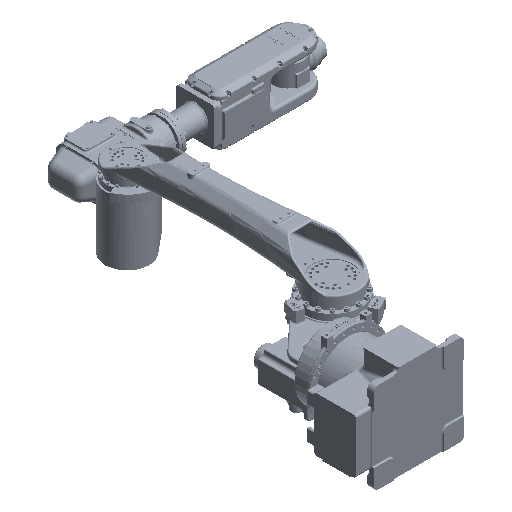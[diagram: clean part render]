
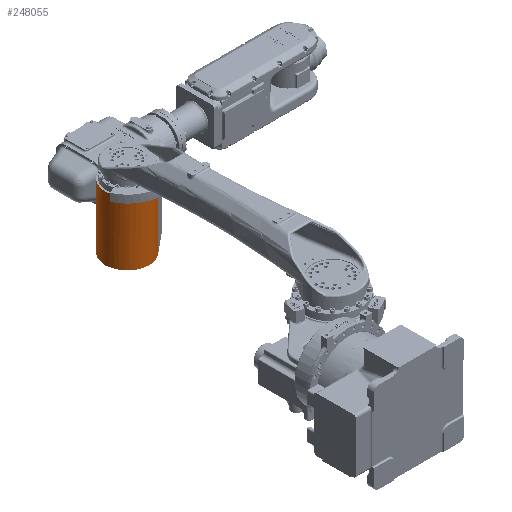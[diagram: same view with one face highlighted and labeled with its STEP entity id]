
A CAD part, isometric view. The second image highlights one B-rep face of the part: STEP entity #248055.
In plain terms, the highlighted cylindrical face has radius 85 mm (diameter 170 mm), a partial arc.
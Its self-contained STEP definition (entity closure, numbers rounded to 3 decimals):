
#8869 = AXIS2_PLACEMENT_3D ( 'NONE', #95804, #334517, #130101 ) ;
#11111 = EDGE_CURVE ( 'NONE', #44931, #270180, #419531, .T. ) ;
#14066 = LINE ( 'NONE', #279368, #126208 ) ;
#26839 = CARTESIAN_POINT ( 'NONE',  ( 54.637, -65.114, -136.05 ) ) ;
#28510 = CIRCLE ( 'NONE', #8869, 85. ) ;
#33507 = CARTESIAN_POINT ( 'NONE',  ( 0., 0., -136.05 ) ) ;
#35946 = CARTESIAN_POINT ( 'NONE',  ( 0., 0., 110.45 ) ) ;
#44931 = VERTEX_POINT ( 'NONE', #80710 ) ;
#64546 = CIRCLE ( 'NONE', #80362, 85. ) ;
#65270 = CYLINDRICAL_SURFACE ( 'NONE', #95988, 85. ) ;
#67826 = DIRECTION ( 'NONE',  ( 1., 0., 0. ) ) ;
#70273 = DIRECTION ( 'NONE',  ( 1., 0., 0. ) ) ;
#77202 = CARTESIAN_POINT ( 'NONE',  ( -5.116, 84.846, 110.45 ) ) ;
#77561 = AXIS2_PLACEMENT_3D ( 'NONE', #33507, #272334, #67826 ) ;
#80362 = AXIS2_PLACEMENT_3D ( 'NONE', #127391, #366119, #161856 ) ;
#80710 = CARTESIAN_POINT ( 'NONE',  ( 54.144, -65.524, 110.45 ) ) ;
#84689 = VERTEX_POINT ( 'NONE', #26839 ) ;
#95804 = CARTESIAN_POINT ( 'NONE',  ( 0., 0., -44.55 ) ) ;
#95988 = AXIS2_PLACEMENT_3D ( 'NONE', #315323, #352437, #148164 ) ;
#116272 = CARTESIAN_POINT ( 'NONE',  ( 0., 85., -136.05 ) ) ;
#126208 = VECTOR ( 'NONE', #143517, 1000. ) ;
#127391 = CARTESIAN_POINT ( 'NONE',  ( 0., 0., -134.55 ) ) ;
#130101 = DIRECTION ( 'NONE',  ( 1., 0., 0. ) ) ;
#142648 = ORIENTED_EDGE ( 'NONE', *, *, #297705, .F. ) ;
#143517 = DIRECTION ( 'NONE',  ( 0., 0., -1. ) ) ;
#148164 = DIRECTION ( 'NONE',  ( 1., 0., 0. ) ) ;
#150637 = DIRECTION ( 'NONE',  ( 0., 0., -1. ) ) ;
#161856 = DIRECTION ( 'NONE',  ( -1., 0., 0. ) ) ;
#168898 = EDGE_CURVE ( 'NONE', #230049, #198658, #28510, .T. ) ;
#169903 = DIRECTION ( 'NONE',  ( 0., 0., 1. ) ) ;
#189728 = DIRECTION ( 'NONE',  ( 0., 0., 1. ) ) ;
#198658 = VERTEX_POINT ( 'NONE', #434176 ) ;
#207206 = LINE ( 'NONE', #116272, #377888 ) ;
#224626 = ORIENTED_EDGE ( 'NONE', *, *, #433249, .T. ) ;
#230049 = VERTEX_POINT ( 'NONE', #262948 ) ;
#240532 = VERTEX_POINT ( 'NONE', #315332 ) ;
#248055 = ADVANCED_FACE ( 'NONE', ( #337521 ), #65270, .T. ) ;
#249923 = LINE ( 'NONE', #428237, #351175 ) ;
#250454 = CARTESIAN_POINT ( 'NONE',  ( 54.144, -65.524, -134.55 ) ) ;
#251568 = ORIENTED_EDGE ( 'NONE', *, *, #281973, .T. ) ;
#252975 = VECTOR ( 'NONE', #169903, 1000. ) ;
#262948 = CARTESIAN_POINT ( 'NONE',  ( -5.116, 84.846, -44.55 ) ) ;
#265159 = VERTEX_POINT ( 'NONE', #250454 ) ;
#270180 = VERTEX_POINT ( 'NONE', #77202 ) ;
#272334 = DIRECTION ( 'NONE',  ( 0., 0., 1. ) ) ;
#274777 = DIRECTION ( 'NONE',  ( 0., 0., -1. ) ) ;
#277943 = EDGE_CURVE ( 'NONE', #432392, #84689, #325217, .T. ) ;
#278839 = EDGE_CURVE ( 'NONE', #198658, #432392, #207206, .T. ) ;
#279368 = CARTESIAN_POINT ( 'NONE',  ( -5.116, 84.846, -136.05 ) ) ;
#281973 = EDGE_CURVE ( 'NONE', #265159, #44931, #434242, .T. ) ;
#297705 = EDGE_CURVE ( 'NONE', #265159, #240532, #64546, .T. ) ;
#306063 = ORIENTED_EDGE ( 'NONE', *, *, #168898, .T. ) ;
#307550 = ORIENTED_EDGE ( 'NONE', *, *, #278839, .T. ) ;
#315323 = CARTESIAN_POINT ( 'NONE',  ( 0., 0., -136.05 ) ) ;
#315332 = CARTESIAN_POINT ( 'NONE',  ( 54.637, -65.114, -134.55 ) ) ;
#316746 = ORIENTED_EDGE ( 'NONE', *, *, #11111, .T. ) ;
#325217 = CIRCLE ( 'NONE', #77561, 85. ) ;
#334517 = DIRECTION ( 'NONE',  ( 0., 0., -1. ) ) ;
#337521 = FACE_OUTER_BOUND ( 'NONE', #392504, .T. ) ;
#342852 = CARTESIAN_POINT ( 'NONE',  ( 0., 85., -136.05 ) ) ;
#351175 = VECTOR ( 'NONE', #189728, 1000. ) ;
#352437 = DIRECTION ( 'NONE',  ( 0., 0., 1. ) ) ;
#359100 = ORIENTED_EDGE ( 'NONE', *, *, #394081, .T. ) ;
#366119 = DIRECTION ( 'NONE',  ( 0., 0., 1. ) ) ;
#374132 = CARTESIAN_POINT ( 'NONE',  ( 54.144, -65.524, -136.05 ) ) ;
#377888 = VECTOR ( 'NONE', #150637, 1000. ) ;
#378879 = ORIENTED_EDGE ( 'NONE', *, *, #277943, .T. ) ;
#392504 = EDGE_LOOP ( 'NONE', ( #306063, #307550, #378879, #359100, #142648, #251568, #316746, #224626 ) ) ;
#394081 = EDGE_CURVE ( 'NONE', #84689, #240532, #249923, .T. ) ;
#419531 = CIRCLE ( 'NONE', #426774, 85. ) ;
#426774 = AXIS2_PLACEMENT_3D ( 'NONE', #35946, #274777, #70273 ) ;
#428237 = CARTESIAN_POINT ( 'NONE',  ( 54.637, -65.114, -136.05 ) ) ;
#432392 = VERTEX_POINT ( 'NONE', #342852 ) ;
#433249 = EDGE_CURVE ( 'NONE', #270180, #230049, #14066, .T. ) ;
#434176 = CARTESIAN_POINT ( 'NONE',  ( 0., 85., -44.55 ) ) ;
#434242 = LINE ( 'NONE', #374132, #252975 ) ;
